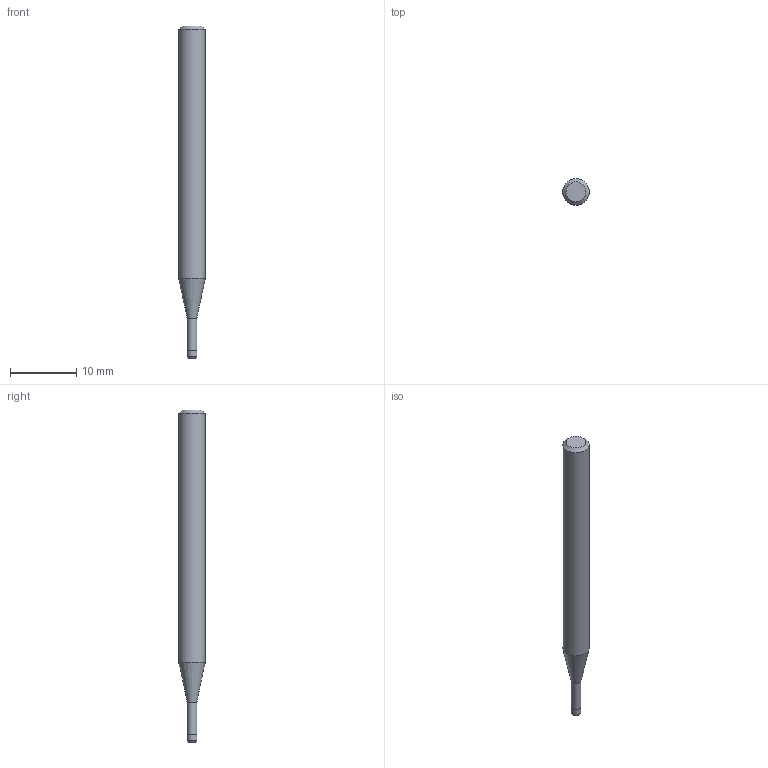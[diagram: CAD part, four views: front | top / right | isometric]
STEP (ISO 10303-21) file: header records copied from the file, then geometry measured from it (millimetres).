
FILE_DESCRIPTION((''),'2;1');
FILE_NAME('C:\Users\nsx150\AppData\Local\Temp\Mastercam 2021\17T8Q8S9EB\TEMP.step','2021-04-21T14:35:44',(''),(''),'STEP Write','Mastercam 2021 ... CNC Software, Inc.','');
FILE_SCHEMA(('AUTOMOTIVE_DESIGN'));
Length unit declared in the file: millimetre
Products named in the file (1): None
Bounding box: 4 x 4 x 50 mm (x, y, z)
Volume: 523.6 mm3; surface area: 570.9 mm2
Topology: 2 solids, 2 shells, 10 faces, 14 edges, 8 vertices
Faces by surface type: plane 4, cylinder 3, cone 2, torus 1
Full cylindrical faces by diameter (mm): 1.45 x1, 1.5 x1, 4 x1
Entity records: 232 total; most frequent: DIRECTION 40, CARTESIAN_POINT 28, AXIS2_PLACEMENT_3D 20, ORIENTED_EDGE 16, EDGE_LOOP 16, STYLED_ITEM 13, ADVANCED_FACE 10, FACE_BOUND 10
